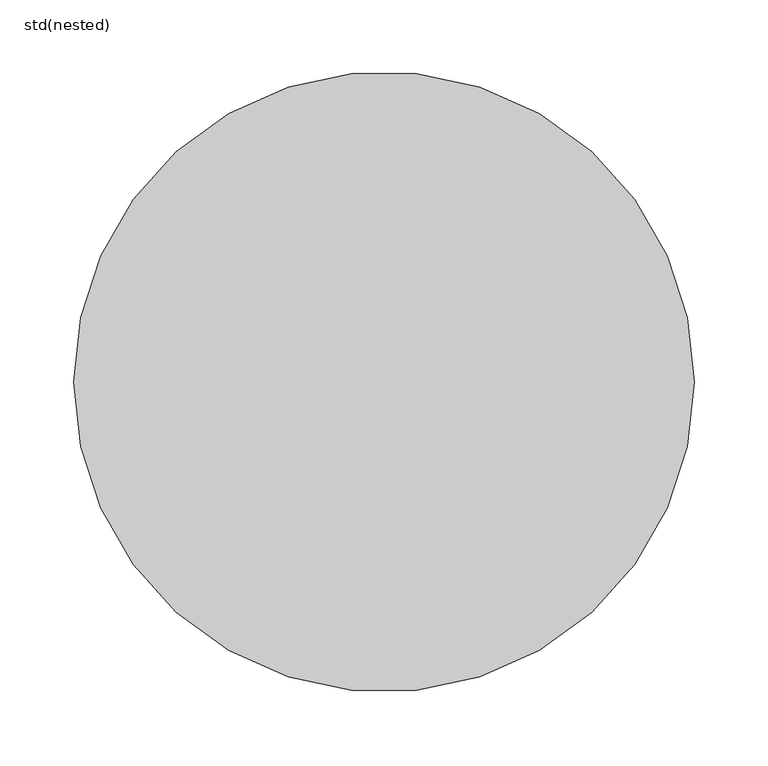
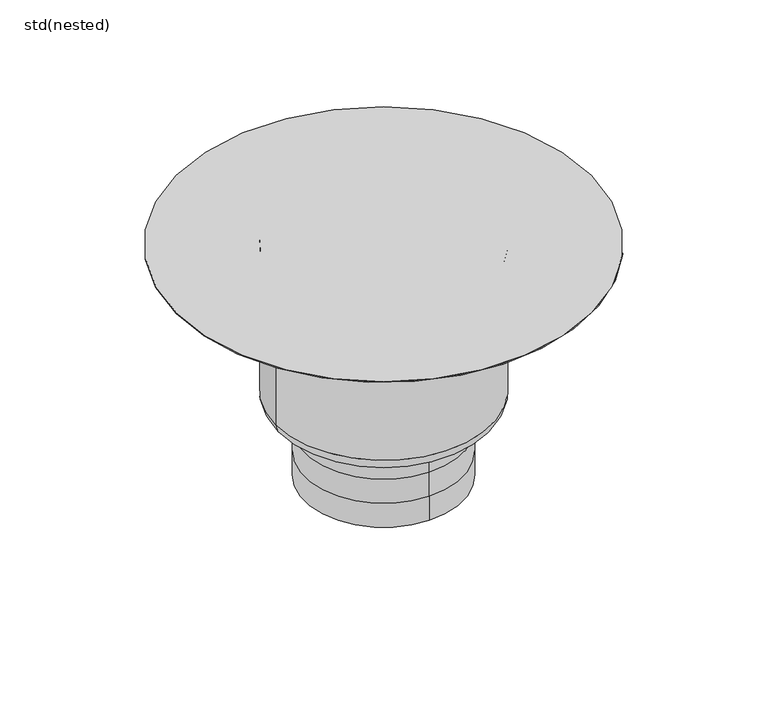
"""IFC4 building model written with IfcOpenShell, lengths in millimetres: sanitary terminal geometry, ZZZ_do not use_PF_ST_WPB_industrial Processes Variant_CR 218_ACO : std(nested)."""

from ifc_helpers import new_model, si_unit, point, frame, origin, origin_with_axes, place, context, project, spatial, circle_curve, ellipse_curve, trimmed, source, transform, mapped, element, save
from ifc_brep_helpers import plane_surface, cylinder_surface, revolved_surface, advanced_brep


def std_nested_b2a49f5a(model_context):
    return source(origin(), model_context, "Body", "AdvancedBrep", [
        advanced_brep(
        [(0.0, -80.0, -247.0), (0.0, 80.0, -247.0), (0.0, -80.0, -221.3333333), (0.0, 80.0, -221.3333333), (0.0, -80.0, -195.6666667), (0.0, 80.0, -195.6666667), (0.0, 80.0, -170.0), (80.0, 0.0, -170.0), (0.0, -80.0, -170.0), (-80.0, 0.0, -170.0), (109.0, 0.0, -155.0), (-109.0, 0.0, -155.0), (-109.0, 0.0, -1.0), (109.0, 0.0, -1.0), (94.0, 0.0, -170.0), (-94.0, 0.0, -170.0), (-210.0, 0.0, -1.0), (210.0, 0.0, -1.0), (-210.0, 0.0, 0.0), (210.0, 0.0, 0.0)],
        [
            (0, 1, circle_curve(frame((0.0, 0.0, -247.0), z_axis=(0.0, 0.0, -1.0), x_axis=(0.0, 1.0, 0.0)), 80.0)),
            (1, 0, circle_curve(frame((0.0, 0.0, -247.0), z_axis=(0.0, 0.0, -1.0), x_axis=(0.0, 1.0, 0.0)), 80.0)),
            (0, 2),
            (2, 3, circle_curve(frame((0.0, 0.0, -221.3333333), z_axis=(0.0, 0.0, -1.0), x_axis=(0.0, 1.0, 0.0)), 80.0)),
            (3, 1),
            (3, 2, circle_curve(frame((0.0, 0.0, -221.3333333), z_axis=(0.0, 0.0, -1.0), x_axis=(0.0, 1.0, 0.0)), 80.0)),
            (4, 2),
            (3, 5),
            (5, 4, circle_curve(frame((0.0, 0.0, -195.6666667), z_axis=(0.0, 0.0, -1.0), x_axis=(1.0, 0.0, 0.0)), 80.0)),
            (4, 5, circle_curve(frame((0.0, 0.0, -195.6666667), z_axis=(0.0, 0.0, -1.0), x_axis=(-1.0, 0.0, 0.0)), 80.0)),
            (5, 6),
            (6, 7, circle_curve(frame((0.0, 0.0, -170.0), z_axis=(0.0, 0.0, -1.0), x_axis=(0.0, 1.0, 0.0)), 80.0)),
            (7, 8, circle_curve(frame((0.0, 0.0, -170.0), z_axis=(0.0, 0.0, -1.0), x_axis=(0.0, 1.0, 0.0)), 80.0)),
            (8, 4),
            (8, 9, circle_curve(frame((0.0, 0.0, -170.0), z_axis=(0.0, 0.0, -1.0), x_axis=(0.0, 1.0, 0.0)), 80.0)),
            (9, 6, circle_curve(frame((0.0, 0.0, -170.0), z_axis=(0.0, 0.0, -1.0), x_axis=(0.0, 1.0, 0.0)), 80.0)),
            (10, 11, circle_curve(frame((0.0, 0.0, -155.0), z_axis=(0.0, 0.0, 1.0), x_axis=(-1.0, 0.0, 0.0)), 109.0)),
            (11, 12),
            (12, 13, circle_curve(frame((0.0, 0.0, -1.0), z_axis=(0.0, 0.0, -1.0), x_axis=(-1.0, 0.0, 0.0)), 109.0)),
            (13, 10),
            (11, 10, circle_curve(frame((0.0, 0.0, -155.0), z_axis=(0.0, 0.0, 1.0), x_axis=(-1.0, 0.0, 0.0)), 109.0)),
            (13, 12, circle_curve(frame((0.0, 0.0, -1.0), z_axis=(0.0, 0.0, -1.0), x_axis=(-1.0, 0.0, 0.0)), 109.0)),
            (10, 14, circle_curve(frame((94.0, 0.0, -155.0), z_axis=(0.0, 1.0, 0.0), x_axis=(-1.0, 0.0, 0.0)), 15.0)),
            (14, 15, circle_curve(frame((0.0, 0.0, -170.0), z_axis=(0.0, 0.0, 1.0), x_axis=(-1.0, 0.0, 0.0)), 94.0)),
            (15, 11, circle_curve(frame((-94.0, 0.0, -155.0), z_axis=(0.0, 1.0, 0.0), x_axis=(1.0, 0.0, 0.0)), 15.0)),
            (15, 14, circle_curve(frame((0.0, 0.0, -170.0), z_axis=(0.0, 0.0, 1.0), x_axis=(-1.0, 0.0, 0.0)), 94.0)),
            (14, 7),
            (9, 15),
            (16, 17, circle_curve(frame((0.0, 0.0, -1.0), z_axis=(0.0, 0.0, -1.0), x_axis=(1.0, 0.0, 0.0)), 210.0)),
            (17, 16, circle_curve(frame((0.0, 0.0, -1.0), z_axis=(0.0, 0.0, -1.0), x_axis=(1.0, 0.0, 0.0)), 210.0)),
            (18, 19, circle_curve(origin_with_axes(), 210.0)),
            (19, 18, circle_curve(origin_with_axes(), 210.0)),
            (17, 19),
            (18, 16),
        ],
        [
            plane_surface(frame((0.0, 80.0, -247.0), z_axis=(0.0, 0.0, -1.0), x_axis=(1.0, 0.0, 0.0))),
            cylinder_surface(frame((0.0, 0.0, -221.3333333), z_axis=(0.0, 0.0, -1.0), x_axis=(0.0, 1.0, 0.0)), 80.0),
            cylinder_surface(frame((0.0, 0.0, -195.6666667), z_axis=(0.0, 0.0, -1.0), x_axis=(1.0, 0.0, 0.0)), 80.0),
            cylinder_surface(frame((0.0, 0.0, -195.6666667), z_axis=(0.0, 0.0, -1.0), x_axis=(-1.0, 0.0, 0.0)), 80.0),
            cylinder_surface(frame((0.0, 0.0, -170.0), z_axis=(0.0, 0.0, -1.0), x_axis=(0.0, 1.0, 0.0)), 80.0),
            cylinder_surface(frame((0.0, 0.0, 60.0), z_axis=(0.0, 0.0, -1.0), x_axis=(-1.0, 0.0, 0.0)), 109.0),
            revolved_surface(trimmed(ellipse_curve(frame((-94.0, 0.0, -155.0), z_axis=(0.0, -1.0, 0.0), x_axis=(1.0, 0.0, 0.0)), 15.0, 15.0), [point((-109.0, 0.0, -155.0))], [point((-94.0, 0.0, -170.0))], True, "CARTESIAN"), (0.0, 0.0, 60.0), (0.0, 0.0, -1.0)),
            plane_surface(frame((0.0, 0.0, -170.0), z_axis=(0.0, 0.0, -1.0), x_axis=(-1.0, 0.0, 0.0))),
            plane_surface(frame((210.0, 0.0, -1.0), z_axis=(0.0, 0.0, -1.0), x_axis=(0.0, -1.0, 0.0))),
            plane_surface(frame((210.0, 0.0, 0.0), z_axis=(0.0, 0.0, 1.0), x_axis=(0.0, 1.0, 0.0))),
            cylinder_surface(frame((0.0, 0.0, -1.0), z_axis=(0.0, 0.0, 1.0), x_axis=(1.0, 0.0, 0.0)), 210.0),
        ],
        [
            (0, [[1, 2]]),
            (1, [[-1, 3, 4, 5]]),
            (1, [[-2, -5, 6, -3]]),
            (2, [[7, -6, 8, 9]]),
            (3, [[-7, 10, -8, -4]]),
            (4, [[11, 12, 13, 14, -9]]),
            (4, [[-11, -10, -14, 15, 16]]),
            (5, [[17, 18, 19, 20]]),
            (5, [[-18, 21, -20, 22]]),
            (6, [[-17, 23, 24, 25]]),
            (6, [[-21, -25, 26, -23]]),
            (7, [[-24, 27, -12, -16, 28]]),
            (7, [[-26, -28, -15, -13, -27]]),
            (8, [[29, 30], [-19, -22]]),
            (9, [[31, 32]]),
            (10, [[-30, 33, -31, 34]]),
            (10, [[-29, -34, -32, -33]]),
        ],
    ),
    ])


if __name__ == "__main__":
    model = new_model("IFC4")
    model_context = context("Model", 3, world=origin())
    ifc_project = project(units=[si_unit("LENGTHUNIT", "METRE", prefix="MILLI")], contexts=[model_context])
    site = spatial("IfcSite", under=ifc_project)
    building = spatial("IfcBuilding", under=site)
    placement = place(None, origin())
    std_nested_shape = std_nested_b2a49f5a(model_context)
    element("IfcSanitaryTerminal", 1, ObjectType="ZZZ_do not use_PF_ST_WPB_industrial Processes Variant_CR 218_ACO : std(nested)", at=placement, inside=building, context=model_context, shape_type="MappedRepresentation", body=[
        mapped(std_nested_shape, transform((0.0, 0.0, 0.0), x_axis=(1.0, 0.0, 0.0), y_axis=(0.0, 1.0, 0.0), z_axis=(0.0, 0.0, 1.0))),
    ])
    save(model, "model.ifc")
